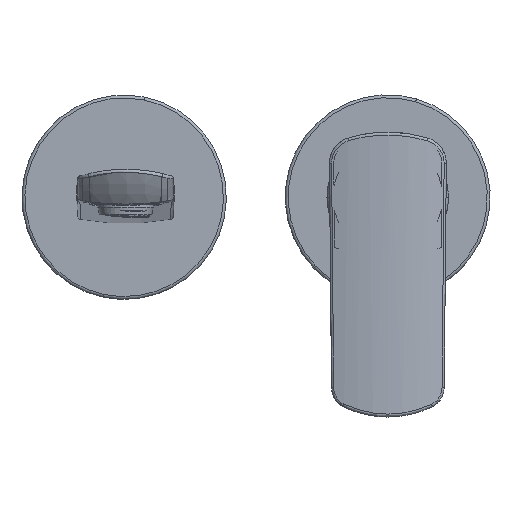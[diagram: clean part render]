
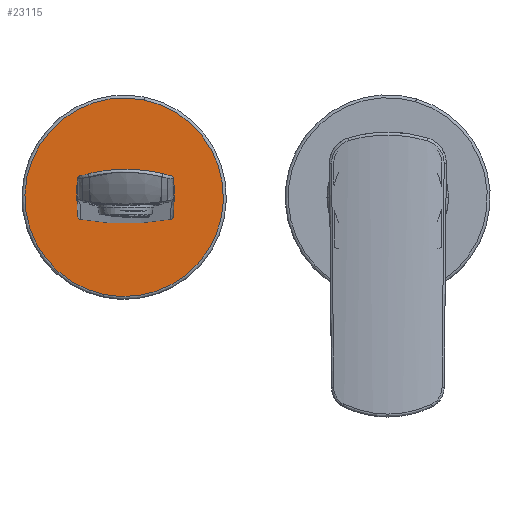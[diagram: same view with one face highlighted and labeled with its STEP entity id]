
A CAD part, front view. The second image highlights one B-rep face of the part: STEP entity #23115.
In plain terms, the highlighted planar face has unit normal (0, -1, 0).
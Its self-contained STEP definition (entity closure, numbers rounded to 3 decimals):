
#1401 = ORIENTED_EDGE ( 'NONE', *, *, #66389, .T. ) ;
#1812 = CARTESIAN_POINT ( 'NONE',  ( -33.883, -70.779, -6.501 ) ) ;
#1844 = ORIENTED_EDGE ( 'NONE', *, *, #22297, .F. ) ;
#1950 = B_SPLINE_CURVE_WITH_KNOTS ( 'NONE', 3,
 ( #61599, #6888, #43944, #65991, #1812, #23780, #52519, #24475 ),
 .UNSPECIFIED., .F., .F.,
 ( 4, 2, 2, 4 ),
 ( 0., 0.001, 0.001, 0.001 ),
 .UNSPECIFIED. ) ;
#2346 = AXIS2_PLACEMENT_3D ( 'NONE', #7583, #22671, #61569 ) ;
#2627 = CARTESIAN_POINT ( 'NONE',  ( -23.29, -70.779, -8.589 ) ) ;
#2686 = VERTEX_POINT ( 'NONE', #54090 ) ;
#3838 = CARTESIAN_POINT ( 'NONE',  ( -18.027, -70.779, 11.147 ) ) ;
#4466 = CARTESIAN_POINT ( 'NONE',  ( -34.277, -70.779, 7.137 ) ) ;
#5416 = CARTESIAN_POINT ( 'NONE',  ( -1.932, -70.779, -6.246 ) ) ;
#5729 = VERTEX_POINT ( 'NONE', #8770 ) ;
#6483 = B_SPLINE_CURVE_WITH_KNOTS ( 'NONE', 3,
 ( #21241, #47912, #38538, #5416, #43530, #53617, #65207, #69970 ),
 .UNSPECIFIED., .F., .F.,
 ( 4, 2, 2, 4 ),
 ( 0., 0.001, 0.001, 0.001 ),
 .UNSPECIFIED. ) ;
#6888 = CARTESIAN_POINT ( 'NONE',  ( -34.277, -70.779, -5.93 ) ) ;
#7583 = CARTESIAN_POINT ( 'NONE',  ( -13.121, -70.779, -0.305 ) ) ;
#8770 = CARTESIAN_POINT ( 'NONE',  ( -2.592, -70.779, -6.68 ) ) ;
#10197 = ORIENTED_EDGE ( 'NONE', *, *, #63082, .F. ) ;
#12444 = ORIENTED_EDGE ( 'NONE', *, *, #13482, .T. ) ;
#13278 = B_SPLINE_CURVE_WITH_KNOTS ( 'NONE', 3,
 ( #25974, #20589, #2627, #41867 ),
 .UNSPECIFIED., .F., .F.,
 ( 4, 4 ),
 ( 0., 0.031 ),
 .UNSPECIFIED. ) ;
#13482 = EDGE_CURVE ( 'NONE', #68722, #26760, #39425, .T. ) ;
#15041 = CARTESIAN_POINT ( 'NONE',  ( -2.283, -70.779, 8.033 ) ) ;
#16142 = PLANE ( 'NONE',  #2346 ) ;
#18615 = CARTESIAN_POINT ( 'NONE',  ( -33.952, -70.779, 7.905 ) ) ;
#20013 = CARTESIAN_POINT ( 'NONE',  ( -28.532, -70.779, 9.604 ) ) ;
#20589 = CARTESIAN_POINT ( 'NONE',  ( -12.764, -70.779, -8.589 ) ) ;
#21241 = CARTESIAN_POINT ( 'NONE',  ( -2.592, -70.779, -6.68 ) ) ;
#21592 = FACE_BOUND ( 'NONE', #62517, .T. ) ;
#21668 = EDGE_CURVE ( 'NONE', #66080, #38909, #27868, .T. ) ;
#22297 = EDGE_CURVE ( 'NONE', #64109, #2686, #38380, .T. ) ;
#22671 = DIRECTION ( 'NONE',  ( 0., 1., 0. ) ) ;
#23115 = ADVANCED_FACE ( 'NONE', ( #60478, #21592 ), #16142, .F. ) ;
#23780 = CARTESIAN_POINT ( 'NONE',  ( -33.683, -70.779, -6.618 ) ) ;
#24475 = CARTESIAN_POINT ( 'NONE',  ( -33.461, -70.779, -6.68 ) ) ;
#25383 = CARTESIAN_POINT ( 'NONE',  ( -2.489, -70.779, 8.095 ) ) ;
#25974 = CARTESIAN_POINT ( 'NONE',  ( -2.592, -70.779, -6.68 ) ) ;
#26135 = EDGE_CURVE ( 'NONE', #55054, #57725, #1950, .T. ) ;
#26539 = CARTESIAN_POINT ( 'NONE',  ( -2.101, -70.779, 7.905 ) ) ;
#26760 = VERTEX_POINT ( 'NONE', #56745 ) ;
#26843 = EDGE_CURVE ( 'NONE', #26760, #2686, #27703, .T. ) ;
#27275 = LINE ( 'NONE', #49242, #70351 ) ;
#27703 = B_SPLINE_CURVE_WITH_KNOTS ( 'NONE', 3,
 ( #63979, #20013, #3838, #63245, #25383 ),
 .UNSPECIFIED., .F., .F.,
 ( 4, 1, 4 ),
 ( 0., 0.016, 0.032 ),
 .UNSPECIFIED. ) ;
#27868 = CIRCLE ( 'NONE', #57789, 33.9 ) ;
#28357 = DIRECTION ( 'NONE',  ( 0., 0., 1. ) ) ;
#29383 = CARTESIAN_POINT ( 'NONE',  ( -1.776, -70.779, -5.697 ) ) ;
#29971 = CARTESIAN_POINT ( 'NONE',  ( -34.277, -70.779, -5.697 ) ) ;
#30543 = CARTESIAN_POINT ( 'NONE',  ( -34.277, -70.779, 7.352 ) ) ;
#31311 = CARTESIAN_POINT ( 'NONE',  ( -1.776, -70.779, 7.137 ) ) ;
#32004 = CARTESIAN_POINT ( 'NONE',  ( -1.776, -70.779, 7.352 ) ) ;
#33581 = LINE ( 'NONE', #45442, #45395 ) ;
#35081 = DIRECTION ( 'NONE',  ( 0., 1., 0. ) ) ;
#36713 = CARTESIAN_POINT ( 'NONE',  ( -11.538, -70.779, 34.002 ) ) ;
#38380 = B_SPLINE_CURVE_WITH_KNOTS ( 'NONE', 3,
 ( #31311, #32004, #47822, #26539, #15041, #58614 ),
 .UNSPECIFIED., .F., .F.,
 ( 4, 2, 4 ),
 ( 0., 0.001, 0.001 ),
 .UNSPECIFIED. ) ;
#38538 = CARTESIAN_POINT ( 'NONE',  ( -2.155, -70.779, -6.514 ) ) ;
#38909 = VERTEX_POINT ( 'NONE', #36713 ) ;
#39425 = B_SPLINE_CURVE_WITH_KNOTS ( 'NONE', 3,
 ( #67715, #30543, #62590, #18615, #62937, #68430 ),
 .UNSPECIFIED., .F., .F.,
 ( 4, 2, 4 ),
 ( 0., 0.001, 0.001 ),
 .UNSPECIFIED. ) ;
#41867 = CARTESIAN_POINT ( 'NONE',  ( -33.461, -70.779, -6.68 ) ) ;
#41904 = CARTESIAN_POINT ( 'NONE',  ( -18.504, -70.779, 0.825 ) ) ;
#43197 = CARTESIAN_POINT ( 'NONE',  ( -25.47, -70.779, -32.352 ) ) ;
#43473 = EDGE_CURVE ( 'NONE', #5729, #57725, #13278, .T. ) ;
#43530 = CARTESIAN_POINT ( 'NONE',  ( -1.875, -70.779, -6.145 ) ) ;
#43944 = CARTESIAN_POINT ( 'NONE',  ( -34.195, -70.779, -6.157 ) ) ;
#45395 = VECTOR ( 'NONE', #56566, 1000. ) ;
#45442 = CARTESIAN_POINT ( 'NONE',  ( -1.776, -70.779, 39.856 ) ) ;
#47198 = VERTEX_POINT ( 'NONE', #29383 ) ;
#47655 = DIRECTION ( 'NONE',  ( 0.205, 0., 0.979 ) ) ;
#47822 = CARTESIAN_POINT ( 'NONE',  ( -1.846, -70.779, 7.562 ) ) ;
#47912 = CARTESIAN_POINT ( 'NONE',  ( -2.363, -70.779, -6.637 ) ) ;
#48187 = ORIENTED_EDGE ( 'NONE', *, *, #43473, .T. ) ;
#49242 = CARTESIAN_POINT ( 'NONE',  ( -34.277, -70.779, 39.856 ) ) ;
#52519 = CARTESIAN_POINT ( 'NONE',  ( -33.576, -70.779, -6.659 ) ) ;
#53617 = CARTESIAN_POINT ( 'NONE',  ( -1.796, -70.779, -5.926 ) ) ;
#54090 = CARTESIAN_POINT ( 'NONE',  ( -2.489, -70.779, 8.095 ) ) ;
#54212 = ORIENTED_EDGE ( 'NONE', *, *, #26135, .F. ) ;
#55054 = VERTEX_POINT ( 'NONE', #29971 ) ;
#56566 = DIRECTION ( 'NONE',  ( 0., 0., -1. ) ) ;
#56745 = CARTESIAN_POINT ( 'NONE',  ( -33.564, -70.779, 8.095 ) ) ;
#57725 = VERTEX_POINT ( 'NONE', #64908 ) ;
#57789 = AXIS2_PLACEMENT_3D ( 'NONE', #58424, #35081, #69714 ) ;
#57963 = ORIENTED_EDGE ( 'NONE', *, *, #63197, .T. ) ;
#58105 = DIRECTION ( 'NONE',  ( 0., 1., 0. ) ) ;
#58424 = CARTESIAN_POINT ( 'NONE',  ( -18.504, -70.779, 0.825 ) ) ;
#58614 = CARTESIAN_POINT ( 'NONE',  ( -2.489, -70.779, 8.095 ) ) ;
#59381 = ORIENTED_EDGE ( 'NONE', *, *, #26843, .T. ) ;
#60283 = CIRCLE ( 'NONE', #66117, 33.9 ) ;
#60478 = FACE_OUTER_BOUND ( 'NONE', #60895, .T. ) ;
#60895 = EDGE_LOOP ( 'NONE', ( #10197, #68437 ) ) ;
#61569 = DIRECTION ( 'NONE',  ( 0.205, 0., 0.979 ) ) ;
#61599 = CARTESIAN_POINT ( 'NONE',  ( -34.277, -70.779, -5.697 ) ) ;
#62517 = EDGE_LOOP ( 'NONE', ( #48187, #54212, #1401, #12444, #59381, #1844, #57963, #69625 ) ) ;
#62590 = CARTESIAN_POINT ( 'NONE',  ( -34.207, -70.779, 7.562 ) ) ;
#62937 = CARTESIAN_POINT ( 'NONE',  ( -33.77, -70.779, 8.033 ) ) ;
#63082 = EDGE_CURVE ( 'NONE', #38909, #66080, #60283, .T. ) ;
#63197 = EDGE_CURVE ( 'NONE', #64109, #47198, #33581, .T. ) ;
#63245 = CARTESIAN_POINT ( 'NONE',  ( -7.521, -70.779, 9.604 ) ) ;
#63296 = EDGE_CURVE ( 'NONE', #5729, #47198, #6483, .T. ) ;
#63979 = CARTESIAN_POINT ( 'NONE',  ( -33.564, -70.779, 8.095 ) ) ;
#64109 = VERTEX_POINT ( 'NONE', #68462 ) ;
#64908 = CARTESIAN_POINT ( 'NONE',  ( -33.461, -70.779, -6.68 ) ) ;
#65207 = CARTESIAN_POINT ( 'NONE',  ( -1.776, -70.779, -5.813 ) ) ;
#65991 = CARTESIAN_POINT ( 'NONE',  ( -33.972, -70.779, -6.426 ) ) ;
#66080 = VERTEX_POINT ( 'NONE', #43197 ) ;
#66117 = AXIS2_PLACEMENT_3D ( 'NONE', #41904, #58105, #47655 ) ;
#66389 = EDGE_CURVE ( 'NONE', #55054, #68722, #27275, .T. ) ;
#67715 = CARTESIAN_POINT ( 'NONE',  ( -34.277, -70.779, 7.137 ) ) ;
#68430 = CARTESIAN_POINT ( 'NONE',  ( -33.564, -70.779, 8.095 ) ) ;
#68437 = ORIENTED_EDGE ( 'NONE', *, *, #21668, .F. ) ;
#68462 = CARTESIAN_POINT ( 'NONE',  ( -1.776, -70.779, 7.137 ) ) ;
#68722 = VERTEX_POINT ( 'NONE', #4466 ) ;
#69625 = ORIENTED_EDGE ( 'NONE', *, *, #63296, .F. ) ;
#69714 = DIRECTION ( 'NONE',  ( 0.205, 0., 0.979 ) ) ;
#69970 = CARTESIAN_POINT ( 'NONE',  ( -1.776, -70.779, -5.697 ) ) ;
#70351 = VECTOR ( 'NONE', #28357, 1000. ) ;
